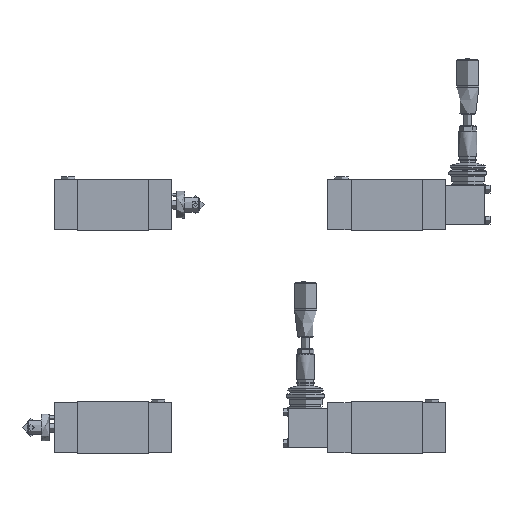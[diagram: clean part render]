
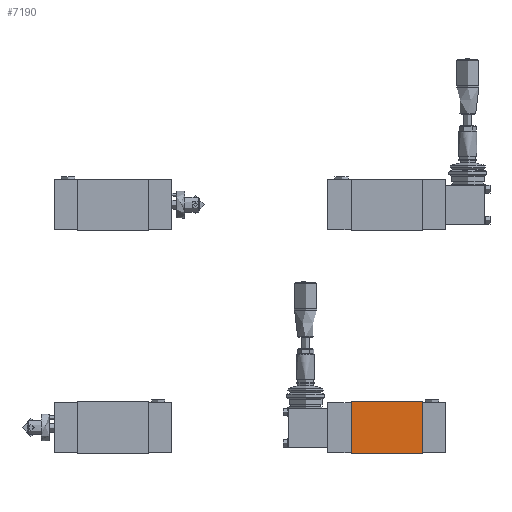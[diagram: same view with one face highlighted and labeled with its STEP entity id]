
A CAD part, front view. The second image highlights one B-rep face of the part: STEP entity #7190.
In plain terms, the highlighted planar face has unit normal (0, -1, 0).
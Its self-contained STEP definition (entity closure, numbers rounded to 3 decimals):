
#7190=ADVANCED_FACE('', (#7200), #7210, .T.);
#45340=AXIS2_PLACEMENT_3D('Ax2Pl3d', #45350, #45360, #45370);
#186500=CARTESIAN_POINT('', (0.,0.,0.));
#186510=CARTESIAN_POINT('', (0.,0.,0.));
#186520=CARTESIAN_POINT('', (0.,0.,46.));
#186840=CARTESIAN_POINT('', (64.,0.,46.));
#186850=CARTESIAN_POINT('', (64.,0.,46.));
#186860=CARTESIAN_POINT('', (64.,0.,0.));
#186960=CARTESIAN_POINT('', (64.,0.,0.));
#187110=CARTESIAN_POINT('', (0.,0.,46.));
#45350=CARTESIAN_POINT('HicPkt', (64.,0.,46.));
#268860=DIRECTION('', (0.,0.,-1.));
#268940=DIRECTION('', (0.,0.,1.));
#268960=DIRECTION('', (1.,0.,0.));
#268990=DIRECTION('', (-1.,0.,0.));
#45360=DIRECTION('Axis', (0.,-1.,
0.));
#45370=DIRECTION('RefDirection', (0.,
0.,-1.));
#280450=EDGE_CURVE('', #280460, #280430, #280470, .T.);
#281090=EDGE_CURVE('', #281100, #281070, #281110, .T.);
#281300=EDGE_CURVE('', #280430, #281100, #281310, .T.);
#281600=EDGE_CURVE('', #281070, #280460, #281610, .T.);
#318190=EDGE_LOOP('Edge_loop', (#318200,#318210,#318220,#318230));
#7200=FACE_OUTER_BOUND('Face_outer_bound', #318190, .T.);
#280470=LINE('Line', #186510, #381830);
#281110=LINE('Line', #186850, #381910);
#281310=LINE('Line', #186960, #381930);
#281610=LINE('Line', #187110, #381960);
#318200=ORIENTED_EDGE('', *, *, #281600, .T.);
#318210=ORIENTED_EDGE('', *, *, #280450, .T.);
#318220=ORIENTED_EDGE('', *, *, #281300, .T.);
#318230=ORIENTED_EDGE('', *, *, #281090, .T.);
#7210=PLANE('Plane', #45340);
#381830=VECTOR('', #268860, 46.);
#381910=VECTOR('', #268940, 46.);
#381930=VECTOR('', #268960, 64.);
#381960=VECTOR('', #268990, 64.);
#280430=VERTEX_POINT('', #186500);
#280460=VERTEX_POINT('', #186520);
#281070=VERTEX_POINT('', #186840);
#281100=VERTEX_POINT('', #186860);
